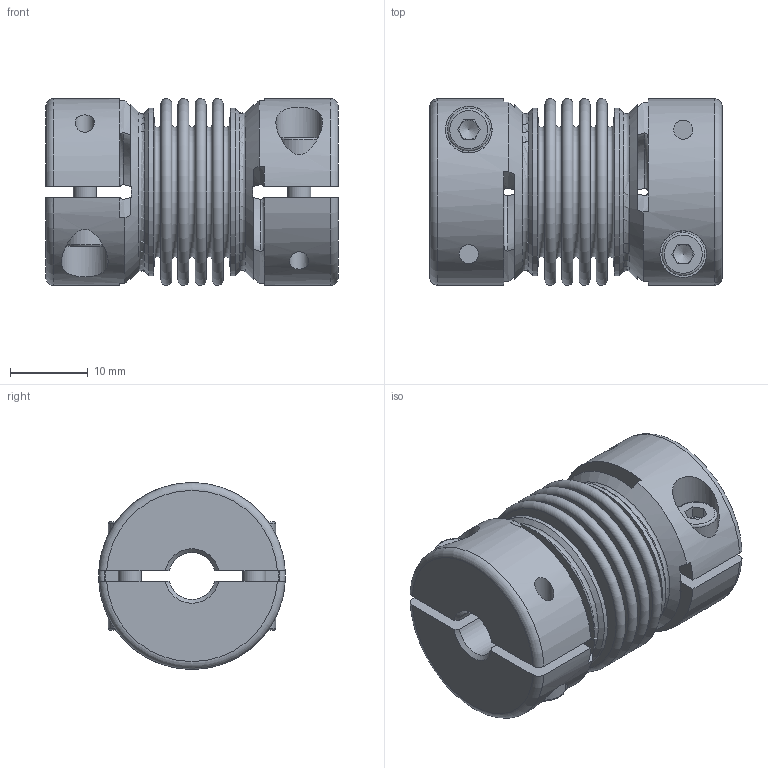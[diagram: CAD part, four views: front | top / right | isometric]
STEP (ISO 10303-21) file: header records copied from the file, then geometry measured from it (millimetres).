
FILE_DESCRIPTION(/* description */ ('Unknown','CAx-IF Rec.Pracs.---Representation and Presentation of Product Manufacturing Information (PMI)---4.0---2014-10-13','CAx-IF Rec.Pracs.---3D Tessellated Geometry---0.4---2014-09-14','2;1'),/* implementation_level */ '2;1');
FILE_NAME(/* name */ 'KG-HS 5 - 4W',/* time_stamp */ '2022-11-25T11:30:54+01:00',/* author */ ('Unknown'),/* organization */ ('Unknown'),/* preprocessor_version */ 'ST-DEVELOPER v18.102',/* originating_system */ 'Solid Edge',/* authorisation */ 'Unknown');
FILE_SCHEMA (('AP242_MANAGED_MODEL_BASED_3D_ENGINEERING_MIM_LF { 1 0 10303 442 1 1 4 }'));
Length unit declared in the file: millimetre
Products named in the file (1): 04824486
Bounding box: 37.56 x 24 x 24 mm (x, y, z)
Volume: 9233 mm3; surface area: 11137.6 mm2
Topology: 1 solids, 1 shells, 212 faces, 501 edges, 323 vertices
Faces by surface type: plane 122, cylinder 40, torus 34, cone 16
Full cylindrical faces by diameter (mm): 2.459 x4, 3 x4, 3.4 x4, 5.5 x4, 6 x4, 20.9 x2, 21.5 x2
Entity records: 7576 total; most frequent: CARTESIAN_POINT 1494, DIRECTION 968, ORIENTED_EDGE 836, EDGE_CURVE 418, AXIS2_PLACEMENT_3D 404, FACE_BOUND 320, EDGE_LOOP 316, VERTEX_POINT 306
